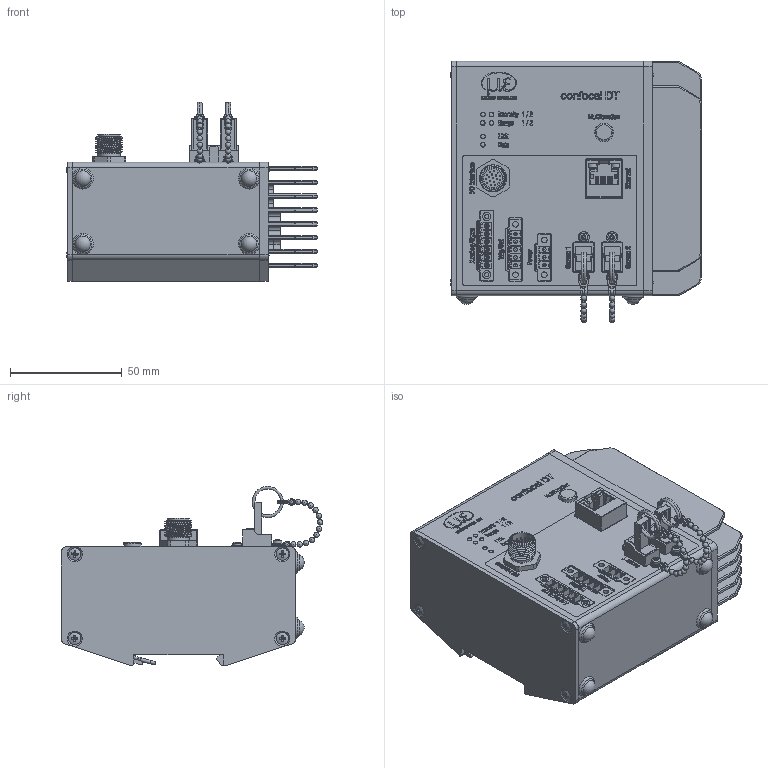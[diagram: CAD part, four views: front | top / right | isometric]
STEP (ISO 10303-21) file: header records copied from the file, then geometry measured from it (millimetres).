
FILE_DESCRIPTION (( 'STEP AP214' ), '1' );
FILE_NAME ('.- _.step', '2025-10-21T07:23:20', ( '' ), ( '' ), 'SwSTEP 2.0', 'SolidWorks 2022', '' );
FILE_SCHEMA (( 'AUTOMOTIVE_DESIGN' ));
Length unit declared in the file: millimetre
Products named in the file (1): .-  _
Bounding box: 112.21 x 117.07 x 80.32 mm (x, y, z)
Volume: 496918.6 mm3; surface area: 78015.8 mm2
Topology: 1 solids, 23 shells, 3846 faces, 10264 edges, 6668 vertices
Faces by surface type: plane 2280, bspline 767, cylinder 465, cone 210, sphere 75, torus 49
Full cylindrical faces by diameter (mm): 0.5 x17, 0.7 x8, 1.5 x4, 1.6 x5, 1.9 x6, 2 x4, 2.1 x6, 2.2 x4, 2.5 x2, 2.7 x4, 3.3 x4, 3.5 x4, 3.8 x4, 4 x1, 5.5 x8, 7.8 x1, 8.3 x1, 8.5 x1, 10 x2
Entity records: 199840 total; most frequent: CARTESIAN_POINT 69083, ORIENTED_EDGE 19586, DIRECTION 15385, EDGE_CURVE 9793, LINE 6595, VECTOR 6595, VERTEX_POINT 6443, AXIS2_PLACEMENT_3D 4395
